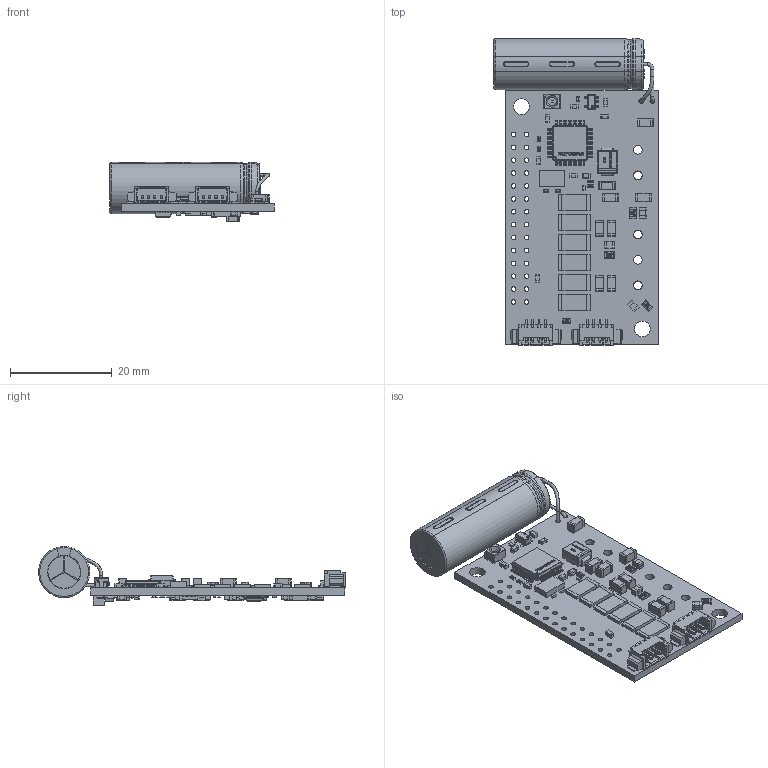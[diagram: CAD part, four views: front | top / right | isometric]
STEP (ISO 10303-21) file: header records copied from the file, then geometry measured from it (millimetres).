
FILE_DESCRIPTION(('Open CASCADE Model'),'2;1');
FILE_NAME('Open CASCADE Shape Model','2023-08-07T14:40:54',('Author'),( 'Open CASCADE'),'Open CASCADE STEP processor 6.8','Open CASCADE 6.8' ,'Unknown');
FILE_SCHEMA(('AUTOMOTIVE_DESIGN { 1 0 10303 214 1 1 1 1 }'));
Length unit declared in the file: millimetre
Products named in the file (159): PCB; Board; D7; SOD-323_diode_v3; U7; QFN-12_(2.5mmx3mm); R47; CR1005-0402; R46; R35; R34; R33; R31; R19; L2; User_Library-Chip_Inductor; C27; CAPC1608X___; C26; C24; C19; VD1; User_Library-Osram_Led_PLCC4-1; D8; User_Library-DIOM5539X24; C34; User_Library-SMD_CAPACITOR0402; R5; 6316701824; Extruded; 6316701632; C13; User_Library-SMD_CAPACITOR0603; R45; User_Library-RESC2012X05N; R44; R43; RESC1005X04N; R42; R41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
Assembly tree (277 placements, depth 4):
  PCB
    Board
    D7
      SOD-323_diode_v3
    U7
      QFN-12_(2.5mmx3mm)
    R47
      CR1005-0402
    R46
      CR1005-0402
    R35
      CR1005-0402
    R34
      CR1005-0402
    R33
      CR1005-0402
    R31
      CR1005-0402
    R19
      CR1005-0402
    L2
      User_Library-Chip_Inductor
    C27
      CAPC1608X___
    C26
      CAPC1608X___
    C24
      CAPC1608X___
    C19
      CAPC1608X___
    VD1
      User_Library-Osram_Led_PLCC4-1
    D8
      User_Library-DIOM5539X24
    C34
      User_Library-SMD_CAPACITOR0402
    R5
      6316701824
        Extruded
      6316701632  x2
        Extruded
    C13
      User_Library-SMD_CAPACITOR0603
    R45
      User_Library-RESC2012X05N
    R44
      User_Library-RESC2012X05N
    R43
      RESC1005X04N
    R42
      RESC1005X04N
    R41
      RESC1005X04N
    R37
      RESC1005X04N
    R36
      RESC1005X04N
    R32
      RESC1005X04N
    Q6
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Bounding box: 32.35 x 60.47 x 11.66 mm (x, y, z)
Volume: 5141.6 mm3; surface area: 7182.5 mm2
Topology: 271 solids, 271 shells, 9753 faces, 26126 edges, 16630 vertices
Faces by surface type: plane 4791, cylinder 2951, bspline 1520, sphere 294, torus 173, cone 24
Full cylindrical faces by diameter (mm): 0.15 x2, 0.6 x9, 0.8 x8, 0.9 x30, 1.7 x5, 3.1 x2
Entity records: 131619 total; most frequent: CARTESIAN_POINT 30628, ORIENTED_EDGE 17476, DIRECTION 15978, EDGE_CURVE 8738, VERTEX_POINT 5608, LINE 5542, VECTOR 5542, AXIS2_PLACEMENT_3D 5218
